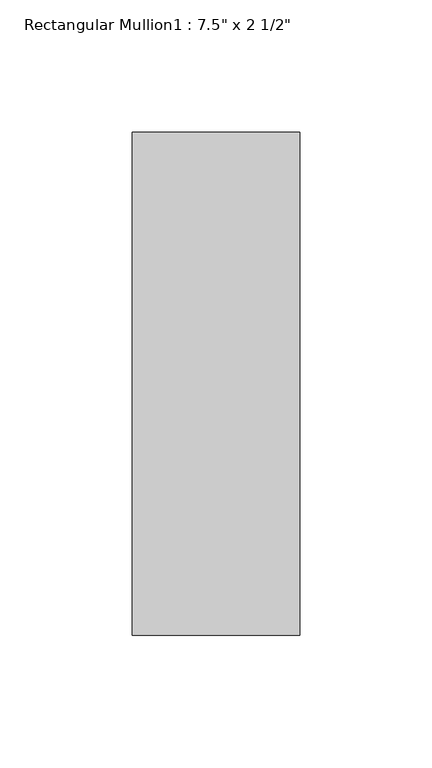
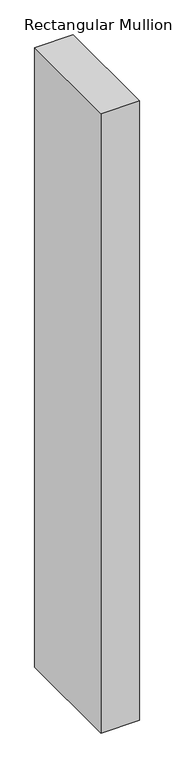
"""IFC4 building model written with IfcOpenShell, lengths in millimetres: member geometry."""

from ifc_helpers import new_model, si_unit, frame, origin, place, context, project, spatial, polyline, outline, extrude, source, transform, mapped, element, save


def member_9a347c70(model_context):
    return source(origin(), model_context, "Body", "SweptSolid", [
        extrude(outline(polyline([(-63.5, 165.1), (0.0, 165.1), (0.0, -25.4), (-63.5, -25.4), (-63.5, 165.1)])), frame((0.0, 0.0, -1085.8499994), z_axis=(0.0, 0.0, 1.0), x_axis=(1.0, 0.0, 0.0)), (0.0, 0.0, 1.0), 1085.8499994),
    ])


if __name__ == "__main__":
    model = new_model("IFC4")
    model_context = context("Model", 3, world=origin())
    ifc_project = project(units=[si_unit("LENGTHUNIT", "METRE", prefix="MILLI")], contexts=[model_context])
    site = spatial("IfcSite", under=ifc_project)
    building = spatial("IfcBuilding", under=site)
    placement = place(None, origin())
    member_shape = member_9a347c70(model_context)
    element("IfcMember", 1, ObjectType="Rectangular Mullion1 : 7.5\" x 2 1/2\"", at=placement, inside=building, context=model_context, shape_type="MappedRepresentation", body=[
        mapped(member_shape, transform((0.0, 0.0, 0.0), x_axis=(1.0, 0.0, 0.0), y_axis=(0.0, 1.0, 0.0), z_axis=(0.0, 0.0, 1.0))),
    ])
    save(model, "model.ifc")
